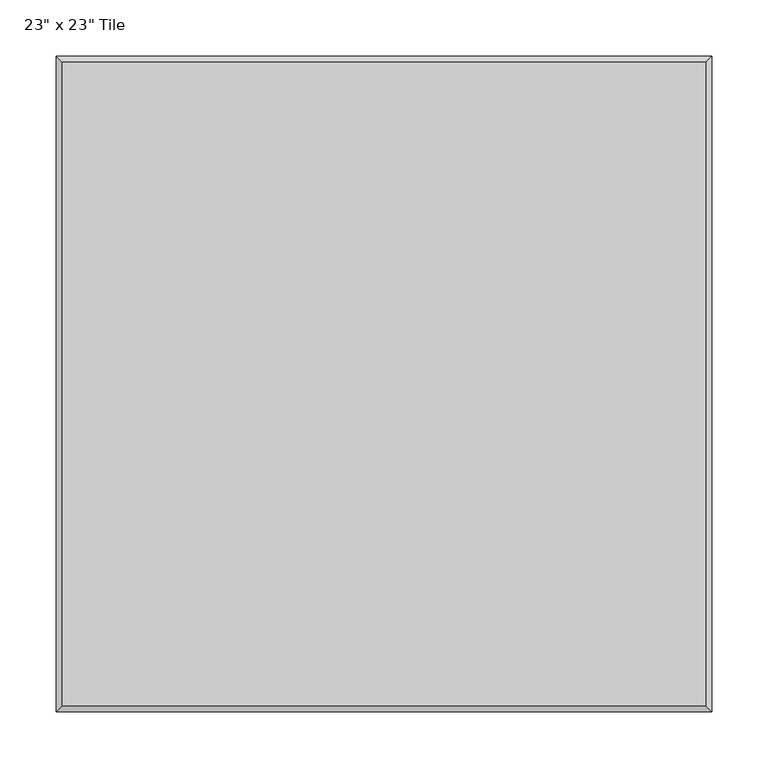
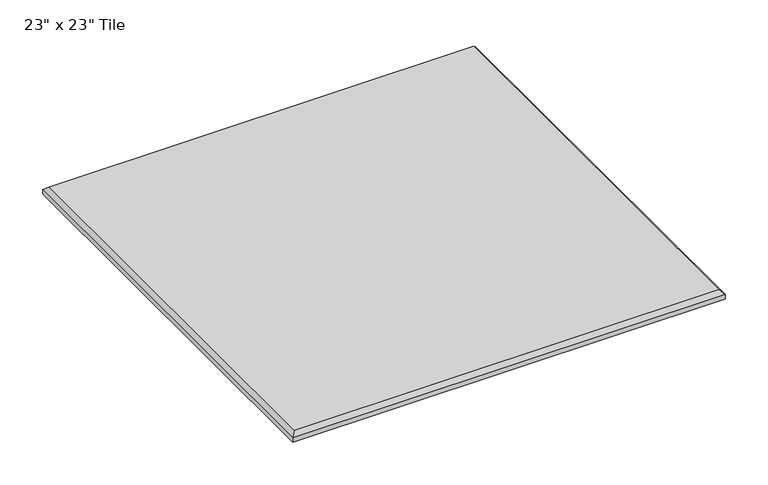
"""IFC4 building model written with IfcOpenShell, lengths in millimetres: proxy geometry."""

import ifcopenshell
import ifcopenshell.guid

model = None  # the IFC model being written
_history = None  # IfcOwnerHistory: only IFC2X3 demands one
_inside = {}  # id of a spatial element -> (the spatial element, [elements in it])
_under = {}  # id of a project, library or spatial element -> (it, [spatial elements below it])
_declared = {}  # id of a project -> (the project, [libraries it declares])
_typed = {}  # id of a type object -> (the type object, [elements of that type])
_made_of = {}  # id of a material, layer set ... -> (it, [elements and type objects made of it])


def new_model(schema):
    """Start an empty IFC model of exactly this schema.

    Asked for "IFC4X3", IfcOpenShell would pick the latest addendum, in which some entities
    have other attributes; the version numbers below select the first issue.
    IFC2X3 requires an IfcOwnerHistory on every rooted entity: one is made here for all.
    """
    global model, _history
    if schema == "IFC4X3":
        model = ifcopenshell.file(schema_version=(4, 3, 0, 0))
    else:
        model = ifcopenshell.file(schema=schema)
    _inside.clear()
    _under.clear()
    _declared.clear()
    _typed.clear()
    _made_of.clear()
    _history = None
    if model.schema == "IFC2X3":
        org = make("IfcOrganization", Name="unknown")
        user = make(
            "IfcPersonAndOrganization",
            ThePerson=make("IfcPerson", FamilyName="unknown"),
            TheOrganization=org,
        )
        app = make(
            "IfcApplication",
            ApplicationDeveloper=org,
            Version="unknown",
            ApplicationFullName="unknown",
            ApplicationIdentifier="unknown",
        )
        _history = make(
            "IfcOwnerHistory",
            OwningUser=user,
            OwningApplication=app,
            ChangeAction="ADDED",
            CreationDate=0,
        )
    return model


def make(cls, **values):
    """One entity of the class cls with the attributes given. An attribute that is None is left unset."""
    return model.create_entity(
        cls, **{name: value for name, value in values.items() if value is not None}
    )


def rooted(cls, **values):
    """An entity with a GlobalId (a new one), such as an element, a storey or a relation."""
    return make(cls, GlobalId=ifcopenshell.guid.new(), OwnerHistory=_history, **values)


def si_unit(unit_type, name, prefix=None):
    """IfcSIUnit, for example si_unit("LENGTHUNIT", "METRE", prefix="MILLI")."""
    return make("IfcSIUnit", UnitType=unit_type, Prefix=prefix, Name=name)


def assignment(units):
    """IfcUnitAssignment: the units of a project."""
    return None if units is None else make("IfcUnitAssignment", Units=units)


def point(xyz):
    """IfcCartesianPoint."""
    return None if xyz is None else make("IfcCartesianPoint", Coordinates=xyz)


def direction(xyz):
    """IfcDirection."""
    return None if xyz is None else make("IfcDirection", DirectionRatios=xyz)


def frame(location, z_axis=None, x_axis=None):
    """IfcAxis2Placement3D, a coordinate frame: its origin and axes. An axis left out is left unset."""
    return make(
        "IfcAxis2Placement3D",
        Location=point(location),
        Axis=direction(z_axis),
        RefDirection=direction(x_axis),
    )


def origin():
    """The frame at (0, 0, 0) with its axes left unset."""
    return frame((0.0, 0.0, 0.0))


def place(relative_to, where):
    """IfcLocalPlacement: puts the frame where relative to a parent placement (None: the world)."""
    return make(
        "IfcLocalPlacement", PlacementRelTo=relative_to, RelativePlacement=where
    )


def context(
    kind, dimensions, precision=None, world=None, true_north=None, identifier=None
):
    """IfcGeometricRepresentationContext, for example the 3D "Model" context."""
    return make(
        "IfcGeometricRepresentationContext",
        ContextIdentifier=identifier,
        ContextType=kind,
        CoordinateSpaceDimension=dimensions,
        Precision=precision,
        WorldCoordinateSystem=world,
        TrueNorth=true_north,
    )


def project(units=None, contexts=None):
    """IfcProject with its units and contexts."""
    return rooted(
        "IfcProject",
        Name="project",
        RepresentationContexts=contexts,
        UnitsInContext=assignment(units),
    )


def spatial(cls, under=None, at=None, **own):
    """A site, building, storey or space (cls), placed at a placement, below another one or the project."""
    s = rooted(cls, ObjectPlacement=at, **own)
    if under is not None:
        _under.setdefault(under.id(), (under, []))[1].append(s)
    return s


def faces_of(points, faces, orient=None, outer=None):
    """IfcFace entities. A face is a list of loops; a loop is a list of indices into points, from 0.

    orient and outer hold one flag for each loop. By default every Orientation is true, the
    first loop of a face is its IfcFaceOuterBound and the others are IfcFaceBound.
    """
    made = []
    for i, loops in enumerate(faces):
        bounds = []
        for j, loop in enumerate(loops):
            is_outer = j == 0 if outer is None else outer[i][j]
            bounds.append(
                make(
                    "IfcFaceOuterBound" if is_outer else "IfcFaceBound",
                    Bound=make("IfcPolyLoop", Polygon=[points[k] for k in loop]),
                    Orientation=True if orient is None else orient[i][j],
                )
            )
        made.append(make("IfcFace", Bounds=bounds))
    return made


def faceted_brep(points, faces, orient=None, outer=None, voids=None):
    """IfcFacetedBrep: a solid bounded by flat faces; with voids (closed shells), ...WithVoids."""
    shared = [point(p) for p in points]
    hull = make("IfcClosedShell", CfsFaces=faces_of(shared, faces, orient, outer))
    if voids is None:
        return make("IfcFacetedBrep", Outer=hull)
    return make(
        "IfcFacetedBrepWithVoids",
        Outer=hull,
        Voids=[
            make(cls, CfsFaces=faces_of(shared, fs, o, b)) for cls, fs, o, b in voids
        ],
    )


def shape(context_of_items, identifier, shape_type, items):
    """IfcShapeRepresentation: the items that make up one representation, for example the "Body"."""
    return make(
        "IfcShapeRepresentation",
        ContextOfItems=context_of_items,
        RepresentationIdentifier=identifier,
        RepresentationType=shape_type,
        Items=items,
    )


def source(mapping_origin, context_of_items, identifier, shape_type, items):
    """IfcRepresentationMap: a shape defined once, which mapped items show again and again."""
    return make(
        "IfcRepresentationMap",
        MappingOrigin=mapping_origin,
        MappedRepresentation=shape(context_of_items, identifier, shape_type, items),
    )


def transform(
    local_origin,
    x_axis=None,
    y_axis=None,
    z_axis=None,
    scale=None,
    scale2=None,
    scale3=None,
    uniform=True,
):
    """IfcCartesianTransformationOperator3D, or its non-uniform kind. x_axis, y_axis, z_axis: its Axis1, 2, 3."""
    if uniform:
        return make(
            "IfcCartesianTransformationOperator3D",
            Axis1=direction(x_axis),
            Axis2=direction(y_axis),
            LocalOrigin=point(local_origin),
            Scale=scale,
            Axis3=direction(z_axis),
        )
    return make(
        "IfcCartesianTransformationOperator3DnonUniform",
        Axis1=direction(x_axis),
        Axis2=direction(y_axis),
        LocalOrigin=point(local_origin),
        Scale=scale,
        Axis3=direction(z_axis),
        Scale2=scale2,
        Scale3=scale3,
    )


def mapped(mapping_source, mapping_target):
    """IfcMappedItem: shows the shape of a source again, moved by a transform."""
    return make(
        "IfcMappedItem", MappingSource=mapping_source, MappingTarget=mapping_target
    )


def made_of(thing, what):
    """Note that an element or type object is made of a material, layer set ...; save() writes the relation."""
    if what is not None:
        _made_of.setdefault(what.id(), (what, []))[1].append(thing)
    return thing


def element(
    cls,
    number,
    at=None,
    inside=None,
    cuts=None,
    type_object=None,
    material=None,
    context=None,
    identifier="Body",
    shape_type=None,
    held_by="IfcProductDefinitionShape",
    body=None,
    shapes=None,
    **own,
):
    """One element of the class cls, such as IfcWall. Its Tag is "e" and its number.

    at: its placement. inside: the storey or other place that contains it. cuts: it is an
    opening in that element (IfcRelVoidsElement). A single representation is given by context,
    identifier, shape_type and body (its items); several are given by shapes. held_by: the class
    of the entity that holds the representations. save() writes the other relations.
    """
    e = rooted(cls, Tag="e%d" % number, ObjectPlacement=at, **own)
    if body is not None:
        shapes = [shape(context, identifier, shape_type, body)]
    if shapes is not None:
        e.Representation = make(held_by, Representations=shapes)
    if inside is not None:
        _inside.setdefault(inside.id(), (inside, []))[1].append(e)
    if cuts is not None:
        rooted(
            "IfcRelVoidsElement", RelatingBuildingElement=cuts, RelatedOpeningElement=e
        )
    if type_object is not None:
        _typed.setdefault(type_object.id(), (type_object, []))[1].append(e)
    return made_of(e, material)


def aggregate(whole, parts):
    """IfcRelAggregates: a whole, such as a stair, and the parts it consists of."""
    return rooted("IfcRelAggregates", RelatingObject=whole, RelatedObjects=parts)


def save(model, path):
    """Write the relations noted so far, then the file.

    IfcRelAggregates (storeys below a building ...), IfcRelContainedInSpatialStructure (elements
    in a storey), IfcRelDefinesByType, IfcRelAssociatesMaterial and IfcRelDeclares: one each for
    every whole, place, type object, material and project.
    """
    for whole, parts in _under.values():
        aggregate(whole, parts)
    for where, things in _inside.values():
        rooted(
            "IfcRelContainedInSpatialStructure",
            RelatedElements=things,
            RelatingStructure=where,
        )
    for kind, things in _typed.values():
        rooted("IfcRelDefinesByType", RelatedObjects=things, RelatingType=kind)
    for what, things in _made_of.values():
        rooted("IfcRelAssociatesMaterial", RelatedObjects=things, RelatingMaterial=what)
    for by, libraries in _declared.values():
        rooted("IfcRelDeclares", RelatingContext=by, RelatedDefinitions=libraries)
    model.write(path)


def proxy_cbdc0e8b(model_context):
    return source(origin(), model_context, "Body", "Brep", [
        faceted_brep([(845.3945313, -286.5945313, 12.0054687), (845.3945313, 286.5945312, 12.0054687), (272.2054688, 286.5945312, 12.0054687), (272.2054688, -286.5945313, 12.0054687), (850.9, 292.1, 0.0), (850.9, -292.1, 0.0), (266.7, -292.1, 0.0), (266.7, 292.1, 0.0), (266.7, 292.1, 6.5), (850.9, 292.1, 6.5), (266.7, -292.1, 6.5), (850.9, -292.1, 6.5)], [[[0, 1, 2, 3]], [[4, 5, 6, 7]], [[4, 7, 8, 9]], [[7, 6, 10, 8]], [[6, 5, 11, 10]], [[5, 4, 9, 11]], [[9, 1, 0, 11]], [[1, 9, 8, 2]], [[2, 8, 10, 3]], [[11, 0, 3, 10]]]),
    ])


if __name__ == "__main__":
    model = new_model("IFC4")
    model_context = context("Model", 3, world=origin())
    ifc_project = project(units=[si_unit("LENGTHUNIT", "METRE", prefix="MILLI")], contexts=[model_context])
    site = spatial("IfcSite", under=ifc_project)
    building = spatial("IfcBuilding", under=site)
    placement = place(None, origin())
    proxy_shape = proxy_cbdc0e8b(model_context)
    element("IfcBuildingElementProxy", 1, Name="Wall-Panel-Kirei-EchoPanel-Echotile_Sync : 23\" x 23\" Tile", ObjectType="Wall-Panel-Kirei-EchoPanel-Echotile_Sync : 23\" x 23\" Tile", at=placement, inside=building, context=model_context, shape_type="MappedRepresentation", body=[
        mapped(proxy_shape, transform((0.0, 0.0, 0.0), x_axis=(1.0, 0.0, 0.0), y_axis=(0.0, 1.0, 0.0), z_axis=(0.0, 0.0, 1.0))),
    ])
    save(model, "model.ifc")
